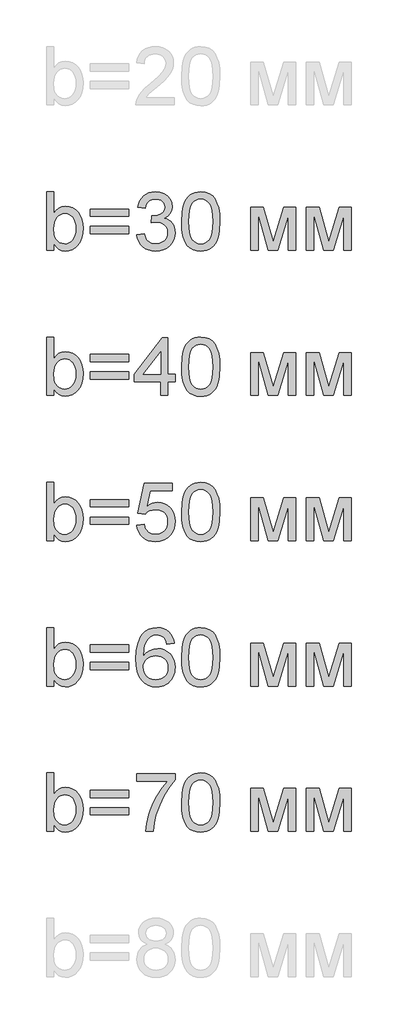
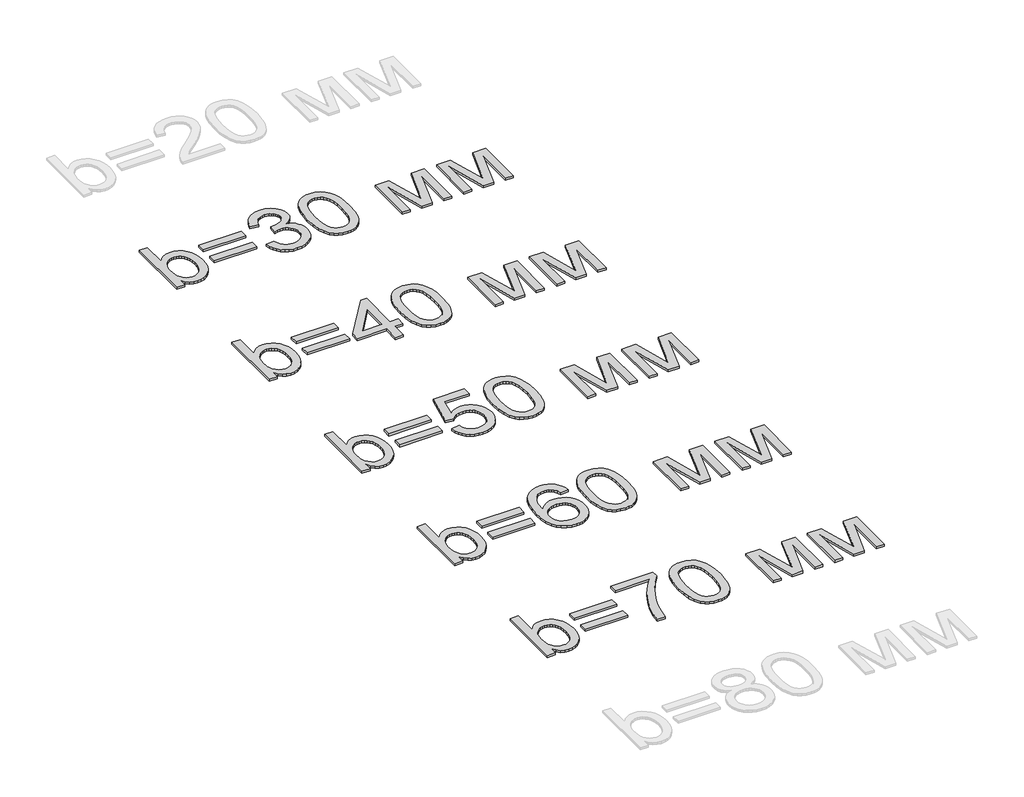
# One storey, part 48 of 86: 5 proxies.
"""IFC4 building model written with IfcOpenShell, lengths in millimetres."""

from ifc_helpers import new_model, si_unit, origin, origin_with_axes, place, context, project, spatial, polyline, outline, extrude, element, save

model = new_model("IFC4")

# Units and contexts
model_context = context("Model", 3, world=origin())
ifc_project = project(units=[si_unit("LENGTHUNIT", "METRE", prefix="MILLI")], contexts=[model_context])

# Site, building, storey
site = spatial("IfcSite", under=ifc_project)
building = spatial("IfcBuilding", under=site)
storey = spatial("IfcBuildingStorey", under=building, Name="Уровень 1", Elevation=0.0)

# Proxies
placement = place(None, origin())
element("IfcBuildingElementProxy", 1, Name="Текст модели 1", ObjectType="Текст модели 1", at=placement, inside=storey, context=model_context, shape_type="SweptSolid", body=[
    extrude(outline(polyline([(-2840.3692012, 86169.2937088), (-2915.7114338, 86169.2937088), (-2915.7114338, 86772.0315697), (-2840.3692012, 86772.0315697), (-2840.3692012, 86548.5064694), (-2815.5923488, 86580.3742473), (-2787.6149231, 86603.1369457), (-2756.436924, 86616.7945648), (-2722.0583516, 86621.3471045), (-2683.2468011, 86617.2452202), (-2646.5689661, 86604.9395675), (-2614.1217742, 86585.2026984), (-2588.0021525, 86558.8071653), (-2567.5295195, 86526.0104854), (-2552.0232934, 86487.0701762), (-2542.2560264, 86443.6049185), (-2539.0002708, 86397.233393), (-2542.3709895, 86343.7249568), (-2552.4831459, 86296.6544555), (-2569.3367398, 86256.0218892), (-2592.9317712, 86221.8272577), (-2621.2540864, 86194.7235517), (-2652.2895312, 86175.3637617), (-2686.0381057, 86163.7478877), (-2722.49981, 86159.8759297), (-2758.0096195, 86164.8699278), (-2789.4911213, 86179.8519221), (-2816.9443152, 86204.8219125), (-2840.3692012, 86239.7798991), (-2840.3692012, 86169.2937088)]), holes=[polyline([(-2840.3692012, 86393.7017259), (-2835.2188533, 86330.8674811), (-2828.7809184, 86307.065516), (-2819.7678095, 86288.3403224), (-2801.5116655, 86265.0993774), (-2780.2940714, 86248.4987024), (-2756.1150273, 86238.5382973), (-2728.9745331, 86235.2181623), (-2706.4417609, 86237.6645776), (-2685.4908812, 86245.0038234), (-2666.1218942, 86257.2358997), (-2648.3347997, 86274.3608066), (-2633.4631701, 86296.3325588), (-2622.8405775, 86323.105171), (-2616.4670219, 86354.6786432), (-2614.3425034, 86391.0529755), (-2616.3796499, 86428.1170865), (-2622.4910896, 86459.9940614), (-2632.6768223, 86486.6839001), (-2646.9368481, 86508.1866028), (-2664.0847476, 86524.7320955), (-2682.9341014, 86536.5503046), (-2703.4849093, 86543.64123), (-2725.7371715, 86546.0048719), (-2748.2699437, 86543.5584566), (-2769.2208233, 86536.2192108), (-2788.5898104, 86523.9871344), (-2806.3769049, 86506.8622276), (-2821.2485345, 86485.1112046), (-2831.8711271, 86459.00078), (-2838.2446827, 86428.5309538), (-2840.3692012, 86393.7017259)])]), origin_with_axes(), (0.0, 0.0, 1.0), 20.0),
    extrude(outline(polyline([(-2068.1113169, 86517.7515346), (-2463.6580381, 86517.7515346), (-2463.6580381, 86593.0937672), (-2068.1113169, 86593.0937672), (-2068.1113169, 86517.7515346)])), origin_with_axes(), (0.0, 0.0, 1.0), 20.0),
    extrude(outline(polyline([(-2068.1113169, 86338.8137322), (-2463.6580381, 86338.8137322), (-2463.6580381, 86414.1559648), (-2068.1113169, 86414.1559648), (-2068.1113169, 86338.8137322)])), origin_with_axes(), (0.0, 0.0, 1.0), 20.0),
    extrude(outline(polyline([(-1983.3513052, 86329.3959531), (-1908.0090726, 86338.8137322), (-1891.1416832, 86291.4673194), (-1879.769531, 86273.5606633), (-1866.4384072, 86259.498374), (-1850.8448091, 86248.8757814), (-1832.6852341, 86241.2882153), (-1811.9596822, 86236.7356756), (-1788.6681534, 86235.2181623), (-1761.3713094, 86237.3058927), (-1737.0175213, 86243.5690836), (-1715.6067892, 86254.0077352), (-1697.139113, 86268.6218475), (-1682.2674833, 86286.3169715), (-1671.6448907, 86305.9986582), (-1665.2713352, 86327.6669077), (-1663.1468166, 86351.32172), (-1665.2529411, 86373.8498937), (-1671.5713143, 86394.3455193), (-1682.1019364, 86412.808597), (-1696.8448074, 86429.2391266), (-1714.834237, 86442.7266002), (-1735.1045349, 86452.36051), (-1757.6557012, 86458.1408558), (-1782.4877359, 86460.0676378), (-1806.289701, 86458.0074986), (-1835.3155904, 86451.8270811), (-1826.9278809, 86527.1693137), (-1814.8613515, 86526.2863969), (-1769.7222306, 86531.6942622), (-1729.3655758, 86547.9178582), (-1712.7557037, 86560.1867228), (-1700.8915093, 86575.3618551), (-1693.7729927, 86593.4432551), (-1691.4001539, 86614.430923), (-1693.1200022, 86631.4684579), (-1698.2795472, 86646.9700854), (-1706.8787888, 86660.9358057), (-1718.9177271, 86673.3656186), (-1733.6697951, 86683.5697454), (-1750.4084259, 86690.8584075), (-1789.8453758, 86696.6893371), (-1810.5019498, 86695.2178091), (-1829.3559021, 86690.8032252), (-1846.4072325, 86683.4455853), (-1861.6559412, 86673.1448894), (-1874.7249491, 86659.9011376), (-1885.2371771, 86643.7143298), (-1893.1926253, 86624.584466), (-1898.5912936, 86602.5115463), (-1973.9335262, 86611.9293254), (-1965.0031907, 86647.8989875), (-1951.7502419, 86679.5828243), (-1934.1746795, 86706.9808359), (-1912.2765038, 86730.0930222), (-1886.7454933, 86748.4411368), (-1858.2714269, 86761.5469328), (-1826.8543045, 86769.4104105), (-1792.4941261, 86772.0315697), (-1745.1293193, 86766.8628277), (-1701.6272733, 86751.3566016), (-1664.9494384, 86726.8924489), (-1638.0572646, 86694.8499271), (-1621.5577571, 86657.9329689), (-1616.0579213, 86618.8455069), (-1621.2818456, 86582.4251894), (-1636.9536186, 86549.3893862), (-1662.852511, 86521.2464136), (-1698.7577938, 86499.5045877), (-1673.6498476, 86491.6503071), (-1651.595322, 86480.4483003), (-1632.5942169, 86465.8985674), (-1616.6465324, 86448.0011083), (-1604.02818, 86427.1973815), (-1595.0150711, 86403.9288453), (-1589.6072058, 86378.1954998), (-1587.804584, 86349.9973448), (-1591.4098276, 86311.7744055), (-1602.2255582, 86276.5680986), (-1620.251776, 86244.378424), (-1645.4884809, 86215.2053818), (-1676.2342186, 86190.9987465), (-1710.787535, 86173.7082927), (-1749.1484301, 86163.3340205), (-1791.3169038, 86159.8759297), (-1829.4294785, 86162.8281827), (-1864.1575388, 86171.6849418), (-1895.5010848, 86186.4462068), (-1923.4601164, 86207.1119779), (-1946.9033966, 86232.4682444), (-1964.6996881, 86261.3009958), (-1976.848991, 86293.610232), (-1983.3513052, 86329.3959531)])), origin_with_axes(), (0.0, 0.0, 1.0), 20.0),
    extrude(outline(polyline([(-1521.8801305, 86465.8065969), (-1516.3435065, 86562.2836501), (-1509.4227264, 86603.1967265), (-1499.7336344, 86639.2261694), (-1487.317617, 86670.6662845), (-1472.2160611, 86697.8113772), (-1454.4289667, 86720.6614476), (-1433.9563336, 86739.2164957), (-1410.7291842, 86753.5730906), (-1384.6785404, 86763.8278012), (-1355.8044023, 86769.9806276), (-1324.1067699, 86772.0315697), (-1277.6800621, 86767.1755274), (-1236.1093966, 86752.6074004), (-1201.3445481, 86728.8974058), (-1175.335291, 86696.6157607), (-1155.6903925, 86656.0383766), (-1140.0186195, 86607.4411651), (-1129.7547118, 86545.7289604), (-1126.3334093, 86465.8065969), (-1131.814851, 86369.8813667), (-1138.6666532, 86329.106246), (-1148.2591762, 86293.1227884), (-1160.5786245, 86261.6688778), (-1175.6112025, 86234.4823983), (-1193.3569103, 86211.56335), (-1213.8157477, 86192.9117329), (-1237.0704884, 86178.458569), (-1263.2039056, 86168.1348805), (-1292.2159994, 86161.9406674), (-1324.1067699, 86159.8759297), (-1365.6038589, 86163.4627792), (-1402.3920585, 86174.2233275), (-1434.4713684, 86192.1575748), (-1461.8417889, 86217.265521), (-1488.1085633, 86262.6529621), (-1506.8705451, 86319.2056218), (-1518.1277341, 86386.9235001), (-1521.8801305, 86465.8065969)]), holes=[polyline([(-1446.5378979, 86465.9537497), (-1444.3306059, 86400.456959), (-1437.70873, 86347.440565), (-1426.6722701, 86306.9045676), (-1411.2212263, 86278.848967), (-1392.532821, 86259.7604899), (-1371.7842765, 86246.1258635), (-1348.9755928, 86237.9450876), (-1324.1067699, 86235.2181623), (-1299.237947, 86237.9542847), (-1276.4292633, 86246.1626517), (-1255.6807188, 86259.8432634), (-1236.9923134, 86278.9961198), (-1221.5412696, 86307.0977057), (-1210.5048098, 86347.624506), (-1203.8829339, 86400.5765206), (-1201.6756419, 86465.9537497), (-1203.8093575, 86529.7168965), (-1210.2105042, 86581.79979), (-1220.879082, 86622.2024301), (-1235.815091, 86650.9248169), (-1254.1907967, 86670.9467945), (-1275.1784645, 86685.248207), (-1298.7780945, 86693.8290546), (-1324.9896867, 86696.6893371), (-1349.7297508, 86694.1693454), (-1372.1521585, 86686.6093704), (-1392.2569095, 86674.0094121), (-1410.044004, 86656.3694704), (-1426.0100825, 86625.0995008), (-1437.4144244, 86582.9402242), (-1444.2570295, 86529.8916405), (-1446.5378979, 86465.9537497)])]), origin_with_axes(), (0.0, 0.0, 1.0), 20.0),
    extrude(outline(polyline([(-806.1289207, 86611.9293254), (-676.4873056, 86611.9293254), (-576.5705557, 86257.5853876), (-468.8547075, 86611.9293254), (-344.6577459, 86611.9293254), (-344.6577459, 86169.2937088), (-419.9999785, 86169.2937088), (-419.9999785, 86525.6977857), (-528.3044379, 86169.2937088), (-627.1911182, 86169.2937088), (-730.7866881, 86542.7675103), (-730.7866881, 86169.2937088), (-806.1289207, 86169.2937088), (-806.1289207, 86611.9293254)])), origin_with_axes(), (0.0, 0.0, 1.0), 20.0),
    extrude(outline(polyline([(-231.644397, 86611.9293254), (-102.0027819, 86611.9293254), (-2.086032, 86257.5853876), (105.6298162, 86611.9293254), (229.8267777, 86611.9293254), (229.8267777, 86169.2937088), (154.4845451, 86169.2937088), (154.4845451, 86525.6977857), (46.1800857, 86169.2937088), (-52.7065946, 86169.2937088), (-156.3021644, 86542.7675103), (-156.3021644, 86169.2937088), (-231.644397, 86169.2937088), (-231.644397, 86611.9293254)])), origin_with_axes(), (0.0, 0.0, 1.0), 20.0),
])
element("IfcBuildingElementProxy", 2, Name="Текст модели 1", ObjectType="Текст модели 1", at=placement, inside=storey, context=model_context, shape_type="SweptSolid", body=[
    extrude(outline(polyline([(-2840.3692012, 84669.2937088), (-2915.7114338, 84669.2937088), (-2915.7114338, 85272.0315697), (-2840.3692012, 85272.0315697), (-2840.3692012, 85048.5064694), (-2815.5923488, 85080.3742473), (-2787.6149231, 85103.1369457), (-2756.436924, 85116.7945648), (-2722.0583516, 85121.3471045), (-2683.2468011, 85117.2452202), (-2646.5689661, 85104.9395675), (-2614.1217742, 85085.2026984), (-2588.0021525, 85058.8071653), (-2567.5295195, 85026.0104854), (-2552.0232934, 84987.0701762), (-2542.2560264, 84943.6049185), (-2539.0002708, 84897.233393), (-2542.3709895, 84843.7249568), (-2552.4831459, 84796.6544555), (-2569.3367398, 84756.0218892), (-2592.9317712, 84721.8272577), (-2621.2540864, 84694.7235517), (-2652.2895312, 84675.3637617), (-2686.0381057, 84663.7478877), (-2722.49981, 84659.8759297), (-2758.0096195, 84664.8699278), (-2789.4911213, 84679.8519221), (-2816.9443152, 84704.8219125), (-2840.3692012, 84739.7798991), (-2840.3692012, 84669.2937088)]), holes=[polyline([(-2840.3692012, 84893.7017259), (-2835.2188533, 84830.8674811), (-2828.7809184, 84807.065516), (-2819.7678095, 84788.3403224), (-2801.5116655, 84765.0993774), (-2780.2940714, 84748.4987024), (-2756.1150273, 84738.5382973), (-2728.9745331, 84735.2181623), (-2706.4417609, 84737.6645776), (-2685.4908812, 84745.0038234), (-2666.1218942, 84757.2358997), (-2648.3347997, 84774.3608066), (-2633.4631701, 84796.3325588), (-2622.8405775, 84823.105171), (-2616.4670219, 84854.6786432), (-2614.3425034, 84891.0529755), (-2616.3796499, 84928.1170865), (-2622.4910896, 84959.9940614), (-2632.6768223, 84986.6839001), (-2646.9368481, 85008.1866028), (-2664.0847476, 85024.7320955), (-2682.9341014, 85036.5503046), (-2703.4849093, 85043.64123), (-2725.7371715, 85046.0048719), (-2748.2699437, 85043.5584566), (-2769.2208233, 85036.2192108), (-2788.5898104, 85023.9871344), (-2806.3769049, 85006.8622276), (-2821.2485345, 84985.1112046), (-2831.8711271, 84959.00078), (-2838.2446827, 84928.5309538), (-2840.3692012, 84893.7017259)])]), origin_with_axes(), (0.0, 0.0, 1.0), 20.0),
    extrude(outline(polyline([(-2068.1113169, 85017.7515346), (-2463.6580381, 85017.7515346), (-2463.6580381, 85093.0937672), (-2068.1113169, 85093.0937672), (-2068.1113169, 85017.7515346)])), origin_with_axes(), (0.0, 0.0, 1.0), 20.0),
    extrude(outline(polyline([(-2068.1113169, 84838.8137322), (-2463.6580381, 84838.8137322), (-2463.6580381, 84914.1559648), (-2068.1113169, 84914.1559648), (-2068.1113169, 84838.8137322)])), origin_with_axes(), (0.0, 0.0, 1.0), 20.0),
    extrude(outline(polyline([(-1738.4890493, 84669.2937088), (-1738.4890493, 84810.5603949), (-2011.6046425, 84810.5603949), (-2011.6046425, 84885.9026276), (-1719.6534911, 85262.6137906), (-1663.1468166, 85262.6137906), (-1663.1468166, 84885.9026276), (-1587.804584, 84885.9026276), (-1587.804584, 84810.5603949), (-1663.1468166, 84810.5603949), (-1663.1468166, 84669.2937088), (-1738.4890493, 84669.2937088)]), holes=[polyline([(-1738.4890493, 84885.9026276), (-1738.4890493, 85118.6983541), (-1918.8983797, 84885.9026276), (-1738.4890493, 84885.9026276)])]), origin_with_axes(), (0.0, 0.0, 1.0), 20.0),
    extrude(outline(polyline([(-1521.8801305, 84965.8065969), (-1516.3435065, 85062.2836501), (-1509.4227264, 85103.1967265), (-1499.7336344, 85139.2261694), (-1487.317617, 85170.6662845), (-1472.2160611, 85197.8113772), (-1454.4289667, 85220.6614476), (-1433.9563336, 85239.2164957), (-1410.7291842, 85253.5730906), (-1384.6785404, 85263.8278012), (-1355.8044023, 85269.9806276), (-1324.1067699, 85272.0315697), (-1277.6800621, 85267.1755274), (-1236.1093966, 85252.6074004), (-1201.3445481, 85228.8974058), (-1175.335291, 85196.6157607), (-1155.6903925, 85156.0383766), (-1140.0186195, 85107.4411651), (-1129.7547118, 85045.7289604), (-1126.3334093, 84965.8065969), (-1131.814851, 84869.8813667), (-1138.6666532, 84829.106246), (-1148.2591762, 84793.1227884), (-1160.5786245, 84761.6688778), (-1175.6112025, 84734.4823983), (-1193.3569103, 84711.56335), (-1213.8157477, 84692.9117329), (-1237.0704884, 84678.458569), (-1263.2039056, 84668.1348805), (-1292.2159994, 84661.9406674), (-1324.1067699, 84659.8759297), (-1365.6038589, 84663.4627792), (-1402.3920585, 84674.2233275), (-1434.4713684, 84692.1575748), (-1461.8417889, 84717.265521), (-1488.1085633, 84762.6529621), (-1506.8705451, 84819.2056218), (-1518.1277341, 84886.9235001), (-1521.8801305, 84965.8065969)]), holes=[polyline([(-1446.5378979, 84965.9537497), (-1444.3306059, 84900.456959), (-1437.70873, 84847.440565), (-1426.6722701, 84806.9045676), (-1411.2212263, 84778.848967), (-1392.532821, 84759.7604899), (-1371.7842765, 84746.1258635), (-1348.9755928, 84737.9450876), (-1324.1067699, 84735.2181623), (-1299.237947, 84737.9542847), (-1276.4292633, 84746.1626517), (-1255.6807188, 84759.8432634), (-1236.9923134, 84778.9961198), (-1221.5412696, 84807.0977057), (-1210.5048098, 84847.624506), (-1203.8829339, 84900.5765206), (-1201.6756419, 84965.9537497), (-1203.8093575, 85029.7168965), (-1210.2105042, 85081.79979), (-1220.879082, 85122.2024301), (-1235.815091, 85150.9248169), (-1254.1907967, 85170.9467945), (-1275.1784645, 85185.248207), (-1298.7780945, 85193.8290546), (-1324.9896867, 85196.6893371), (-1349.7297508, 85194.1693454), (-1372.1521585, 85186.6093704), (-1392.2569095, 85174.0094121), (-1410.044004, 85156.3694704), (-1426.0100825, 85125.0995008), (-1437.4144244, 85082.9402242), (-1444.2570295, 85029.8916405), (-1446.5378979, 84965.9537497)])]), origin_with_axes(), (0.0, 0.0, 1.0), 20.0),
    extrude(outline(polyline([(-806.1289207, 85111.9293254), (-676.4873056, 85111.9293254), (-576.5705557, 84757.5853876), (-468.8547075, 85111.9293254), (-344.6577459, 85111.9293254), (-344.6577459, 84669.2937088), (-419.9999785, 84669.2937088), (-419.9999785, 85025.6977857), (-528.3044379, 84669.2937088), (-627.1911182, 84669.2937088), (-730.7866881, 85042.7675103), (-730.7866881, 84669.2937088), (-806.1289207, 84669.2937088), (-806.1289207, 85111.9293254)])), origin_with_axes(), (0.0, 0.0, 1.0), 20.0),
    extrude(outline(polyline([(-231.644397, 85111.9293254), (-102.0027819, 85111.9293254), (-2.086032, 84757.5853876), (105.6298162, 85111.9293254), (229.8267777, 85111.9293254), (229.8267777, 84669.2937088), (154.4845451, 84669.2937088), (154.4845451, 85025.6977857), (46.1800857, 84669.2937088), (-52.7065946, 84669.2937088), (-156.3021644, 85042.7675103), (-156.3021644, 84669.2937088), (-231.644397, 84669.2937088), (-231.644397, 85111.9293254)])), origin_with_axes(), (0.0, 0.0, 1.0), 20.0),
])
element("IfcBuildingElementProxy", 3, Name="Текст модели 1", ObjectType="Текст модели 1", at=placement, inside=storey, context=model_context, shape_type="SweptSolid", body=[
    extrude(outline(polyline([(-2840.3692012, 83169.2937088), (-2915.7114338, 83169.2937088), (-2915.7114338, 83772.0315697), (-2840.3692012, 83772.0315697), (-2840.3692012, 83548.5064694), (-2815.5923488, 83580.3742473), (-2787.6149231, 83603.1369457), (-2756.436924, 83616.7945648), (-2722.0583516, 83621.3471045), (-2683.2468011, 83617.2452202), (-2646.5689661, 83604.9395675), (-2614.1217742, 83585.2026984), (-2588.0021525, 83558.8071653), (-2567.5295195, 83526.0104854), (-2552.0232934, 83487.0701762), (-2542.2560264, 83443.6049185), (-2539.0002708, 83397.233393), (-2542.3709895, 83343.7249568), (-2552.4831459, 83296.6544555), (-2569.3367398, 83256.0218892), (-2592.9317712, 83221.8272577), (-2621.2540864, 83194.7235517), (-2652.2895312, 83175.3637617), (-2686.0381057, 83163.7478877), (-2722.49981, 83159.8759297), (-2758.0096195, 83164.8699278), (-2789.4911213, 83179.8519221), (-2816.9443152, 83204.8219125), (-2840.3692012, 83239.7798991), (-2840.3692012, 83169.2937088)]), holes=[polyline([(-2840.3692012, 83393.7017259), (-2835.2188533, 83330.8674811), (-2828.7809184, 83307.065516), (-2819.7678095, 83288.3403224), (-2801.5116655, 83265.0993774), (-2780.2940714, 83248.4987024), (-2756.1150273, 83238.5382973), (-2728.9745331, 83235.2181623), (-2706.4417609, 83237.6645776), (-2685.4908812, 83245.0038234), (-2666.1218942, 83257.2358997), (-2648.3347997, 83274.3608066), (-2633.4631701, 83296.3325588), (-2622.8405775, 83323.105171), (-2616.4670219, 83354.6786432), (-2614.3425034, 83391.0529755), (-2616.3796499, 83428.1170865), (-2622.4910896, 83459.9940614), (-2632.6768223, 83486.6839001), (-2646.9368481, 83508.1866028), (-2664.0847476, 83524.7320955), (-2682.9341014, 83536.5503046), (-2703.4849093, 83543.64123), (-2725.7371715, 83546.0048719), (-2748.2699437, 83543.5584566), (-2769.2208233, 83536.2192108), (-2788.5898104, 83523.9871344), (-2806.3769049, 83506.8622276), (-2821.2485345, 83485.1112046), (-2831.8711271, 83459.00078), (-2838.2446827, 83428.5309538), (-2840.3692012, 83393.7017259)])]), origin_with_axes(), (0.0, 0.0, 1.0), 20.0),
    extrude(outline(polyline([(-2068.1113169, 83517.7515346), (-2463.6580381, 83517.7515346), (-2463.6580381, 83593.0937672), (-2068.1113169, 83593.0937672), (-2068.1113169, 83517.7515346)])), origin_with_axes(), (0.0, 0.0, 1.0), 20.0),
    extrude(outline(polyline([(-2068.1113169, 83338.8137322), (-2463.6580381, 83338.8137322), (-2463.6580381, 83414.1559648), (-2068.1113169, 83414.1559648), (-2068.1113169, 83338.8137322)])), origin_with_axes(), (0.0, 0.0, 1.0), 20.0),
    extrude(outline(polyline([(-1983.3513052, 83329.3959531), (-1908.0090726, 83338.8137322), (-1902.3804781, 83314.5933013), (-1894.1767096, 83293.5826409), (-1883.3977672, 83275.7817508), (-1870.0436507, 83261.1906312), (-1854.1419515, 83249.8276761), (-1835.7202606, 83241.7112795), (-1814.778578, 83236.8414416), (-1791.3169038, 83235.2181623), (-1762.6221081, 83237.4760381), (-1737.3118269, 83244.2496653), (-1715.38606, 83255.539044), (-1696.8448074, 83271.3441743), (-1682.1019364, 83290.8833067), (-1671.5713143, 83313.3746922), (-1665.2529411, 83338.8183307), (-1663.1468166, 83367.2142222), (-1665.1195838, 83394.0512138), (-1671.0378854, 83417.9083611), (-1680.9017214, 83438.7856644), (-1694.7110918, 83456.6831234), (-1712.5119819, 83471.0397183), (-1734.3503768, 83481.2944289), (-1760.2262766, 83487.4472553), (-1790.1396814, 83489.4981974), (-1826.6887576, 83486.2240476), (-1856.2848641, 83476.4015984), (-1879.9212823, 83461.3552248), (-1898.5912936, 83442.409302), (-1973.9335262, 83451.8270811), (-1908.0090726, 83762.6137906), (-1616.0579213, 83762.6137906), (-1616.0579213, 83687.271558), (-1847.0878142, 83687.271558), (-1879.314277, 83521.2832018), (-1852.7256058, 83540.3394891), (-1825.4931411, 83553.951123), (-1797.6168829, 83562.1181032), (-1769.0968313, 83564.84043), (-1732.4052008, 83561.4651127), (-1698.7026115, 83551.3391608), (-1667.9890634, 83534.4625743), (-1640.2645565, 83510.8353531), (-1617.3133186, 83481.9014342), (-1600.9195772, 83449.1047543), (-1591.0833323, 83412.4453135), (-1587.804584, 83371.9231117), (-1590.756837, 83332.8908321), (-1599.6135961, 83296.5808791), (-1614.3748611, 83262.993253), (-1635.0406322, 83232.1279536), (-1666.34739, 83200.5176931), (-1702.8780721, 83177.9389357), (-1744.6326786, 83164.3916812), (-1791.6112094, 83159.8759297), (-1830.4917377, 83162.777599), (-1865.6106727, 83171.4826067), (-1896.9680142, 83185.9909529), (-1924.5637624, 83206.3026375), (-1947.5241974, 83231.4059852), (-1964.9755996, 83260.2893203), (-1976.9179689, 83292.952643), (-1983.3513052, 83329.3959531)])), origin_with_axes(), (0.0, 0.0, 1.0), 20.0),
    extrude(outline(polyline([(-1521.8801305, 83465.8065969), (-1516.3435065, 83562.2836501), (-1509.4227264, 83603.1967265), (-1499.7336344, 83639.2261694), (-1487.317617, 83670.6662845), (-1472.2160611, 83697.8113772), (-1454.4289667, 83720.6614476), (-1433.9563336, 83739.2164957), (-1410.7291842, 83753.5730906), (-1384.6785404, 83763.8278012), (-1355.8044023, 83769.9806276), (-1324.1067699, 83772.0315697), (-1277.6800621, 83767.1755274), (-1236.1093966, 83752.6074004), (-1201.3445481, 83728.8974058), (-1175.335291, 83696.6157607), (-1155.6903925, 83656.0383766), (-1140.0186195, 83607.4411651), (-1129.7547118, 83545.7289604), (-1126.3334093, 83465.8065969), (-1131.814851, 83369.8813667), (-1138.6666532, 83329.106246), (-1148.2591762, 83293.1227884), (-1160.5786245, 83261.6688778), (-1175.6112025, 83234.4823983), (-1193.3569103, 83211.56335), (-1213.8157477, 83192.9117329), (-1237.0704884, 83178.458569), (-1263.2039056, 83168.1348805), (-1292.2159994, 83161.9406674), (-1324.1067699, 83159.8759297), (-1365.6038589, 83163.4627792), (-1402.3920585, 83174.2233275), (-1434.4713684, 83192.1575748), (-1461.8417889, 83217.265521), (-1488.1085633, 83262.6529621), (-1506.8705451, 83319.2056218), (-1518.1277341, 83386.9235001), (-1521.8801305, 83465.8065969)]), holes=[polyline([(-1446.5378979, 83465.9537497), (-1444.3306059, 83400.456959), (-1437.70873, 83347.440565), (-1426.6722701, 83306.9045676), (-1411.2212263, 83278.848967), (-1392.532821, 83259.7604899), (-1371.7842765, 83246.1258635), (-1348.9755928, 83237.9450876), (-1324.1067699, 83235.2181623), (-1299.237947, 83237.9542847), (-1276.4292633, 83246.1626517), (-1255.6807188, 83259.8432634), (-1236.9923134, 83278.9961198), (-1221.5412696, 83307.0977057), (-1210.5048098, 83347.624506), (-1203.8829339, 83400.5765206), (-1201.6756419, 83465.9537497), (-1203.8093575, 83529.7168965), (-1210.2105042, 83581.79979), (-1220.879082, 83622.2024301), (-1235.815091, 83650.9248169), (-1254.1907967, 83670.9467945), (-1275.1784645, 83685.248207), (-1298.7780945, 83693.8290546), (-1324.9896867, 83696.6893371), (-1349.7297508, 83694.1693454), (-1372.1521585, 83686.6093704), (-1392.2569095, 83674.0094121), (-1410.044004, 83656.3694704), (-1426.0100825, 83625.0995008), (-1437.4144244, 83582.9402242), (-1444.2570295, 83529.8916405), (-1446.5378979, 83465.9537497)])]), origin_with_axes(), (0.0, 0.0, 1.0), 20.0),
    extrude(outline(polyline([(-806.1289207, 83611.9293254), (-676.4873056, 83611.9293254), (-576.5705557, 83257.5853876), (-468.8547075, 83611.9293254), (-344.6577459, 83611.9293254), (-344.6577459, 83169.2937088), (-419.9999785, 83169.2937088), (-419.9999785, 83525.6977857), (-528.3044379, 83169.2937088), (-627.1911182, 83169.2937088), (-730.7866881, 83542.7675103), (-730.7866881, 83169.2937088), (-806.1289207, 83169.2937088), (-806.1289207, 83611.9293254)])), origin_with_axes(), (0.0, 0.0, 1.0), 20.0),
    extrude(outline(polyline([(-231.644397, 83611.9293254), (-102.0027819, 83611.9293254), (-2.086032, 83257.5853876), (105.6298162, 83611.9293254), (229.8267777, 83611.9293254), (229.8267777, 83169.2937088), (154.4845451, 83169.2937088), (154.4845451, 83525.6977857), (46.1800857, 83169.2937088), (-52.7065946, 83169.2937088), (-156.3021644, 83542.7675103), (-156.3021644, 83169.2937088), (-231.644397, 83169.2937088), (-231.644397, 83611.9293254)])), origin_with_axes(), (0.0, 0.0, 1.0), 20.0),
])
element("IfcBuildingElementProxy", 4, Name="Текст модели 1", ObjectType="Текст модели 1", at=placement, inside=storey, context=model_context, shape_type="SweptSolid", body=[
    extrude(outline(polyline([(-2840.3692012, 81669.2937088), (-2915.7114338, 81669.2937088), (-2915.7114338, 82272.0315697), (-2840.3692012, 82272.0315697), (-2840.3692012, 82048.5064694), (-2815.5923488, 82080.3742473), (-2787.6149231, 82103.1369457), (-2756.436924, 82116.7945648), (-2722.0583516, 82121.3471045), (-2683.2468011, 82117.2452202), (-2646.5689661, 82104.9395675), (-2614.1217742, 82085.2026984), (-2588.0021525, 82058.8071653), (-2567.5295195, 82026.0104854), (-2552.0232934, 81987.0701762), (-2542.2560264, 81943.6049185), (-2539.0002708, 81897.233393), (-2542.3709895, 81843.7249568), (-2552.4831459, 81796.6544555), (-2569.3367398, 81756.0218892), (-2592.9317712, 81721.8272577), (-2621.2540864, 81694.7235517), (-2652.2895312, 81675.3637617), (-2686.0381057, 81663.7478877), (-2722.49981, 81659.8759297), (-2758.0096195, 81664.8699278), (-2789.4911213, 81679.8519221), (-2816.9443152, 81704.8219125), (-2840.3692012, 81739.7798991), (-2840.3692012, 81669.2937088)]), holes=[polyline([(-2840.3692012, 81893.7017259), (-2835.2188533, 81830.8674811), (-2828.7809184, 81807.065516), (-2819.7678095, 81788.3403224), (-2801.5116655, 81765.0993774), (-2780.2940714, 81748.4987024), (-2756.1150273, 81738.5382973), (-2728.9745331, 81735.2181623), (-2706.4417609, 81737.6645776), (-2685.4908812, 81745.0038234), (-2666.1218942, 81757.2358997), (-2648.3347997, 81774.3608066), (-2633.4631701, 81796.3325588), (-2622.8405775, 81823.105171), (-2616.4670219, 81854.6786432), (-2614.3425034, 81891.0529755), (-2616.3796499, 81928.1170865), (-2622.4910896, 81959.9940614), (-2632.6768223, 81986.6839001), (-2646.9368481, 82008.1866028), (-2664.0847476, 82024.7320955), (-2682.9341014, 82036.5503046), (-2703.4849093, 82043.64123), (-2725.7371715, 82046.0048719), (-2748.2699437, 82043.5584566), (-2769.2208233, 82036.2192108), (-2788.5898104, 82023.9871344), (-2806.3769049, 82006.8622276), (-2821.2485345, 81985.1112046), (-2831.8711271, 81959.00078), (-2838.2446827, 81928.5309538), (-2840.3692012, 81893.7017259)])]), origin_with_axes(), (0.0, 0.0, 1.0), 20.0),
    extrude(outline(polyline([(-2068.1113169, 82017.7515346), (-2463.6580381, 82017.7515346), (-2463.6580381, 82093.0937672), (-2068.1113169, 82093.0937672), (-2068.1113169, 82017.7515346)])), origin_with_axes(), (0.0, 0.0, 1.0), 20.0),
    extrude(outline(polyline([(-2068.1113169, 81838.8137322), (-2463.6580381, 81838.8137322), (-2463.6580381, 81914.1559648), (-2068.1113169, 81914.1559648), (-2068.1113169, 81838.8137322)])), origin_with_axes(), (0.0, 0.0, 1.0), 20.0),
    extrude(outline(polyline([(-1597.2223631, 82111.9293254), (-1672.5645957, 82102.5115463), (-1684.7047016, 82139.8515688), (-1701.1122385, 82165.3457911), (-1717.3082434, 82179.0585925), (-1735.2884759, 82188.8534506), (-1755.0529361, 82194.7303655), (-1776.601624, 82196.6893371), (-1811.6239899, 82192.1276003), (-1844.5862167, 82178.4423901), (-1872.8947362, 82149.6188358), (-1896.0161196, 82109.9427626), (-1905.0522211, 82084.6370799), (-1911.6327103, 82053.8223643), (-1917.4268517, 81975.6658344), (-1887.2053458, 82010.9273236), (-1850.9873634, 82035.7777524), (-1810.7962554, 82050.5114263), (-1768.6553729, 82055.4226509), (-1732.4557845, 82052.0657277), (-1699.0520994, 82041.9949581), (-1668.4443174, 82025.2103421), (-1640.6324385, 82001.7118796), (-1617.5202522, 81972.8975224), (-1601.0115477, 81940.1652218), (-1591.1063249, 81903.5149781), (-1587.804584, 81862.9467911), (-1589.3588855, 81835.4798016), (-1594.0217897, 81808.9968965), (-1601.7932969, 81783.4980757), (-1612.6734069, 81758.9833392), (-1626.2758437, 81736.3677936), (-1642.2143311, 81716.5665452), (-1660.4888692, 81699.5795941), (-1681.099458, 81685.4069402), (-1703.6046391, 81674.2371231), (-1727.562954, 81666.2586823), (-1752.9744028, 81661.4716179), (-1779.8389855, 81659.8759297), (-1824.7527786, 81664.1065727), (-1865.3163671, 81676.7985015), (-1901.529751, 81697.9517162), (-1933.3929303, 81727.5662168), (-1959.3699977, 81766.8928021), (-1977.9250458, 81817.1822709), (-1989.0580747, 81878.4346231), (-1992.7690843, 81950.6498587), (-1988.648806, 82031.6114888), (-1976.2879709, 82100.7089245), (-1955.6865792, 82157.9421659), (-1942.2956746, 82182.1097138), (-1926.8446308, 82203.311213), (-1895.5838582, 82233.3763691), (-1859.3382847, 82254.8514805), (-1818.1079101, 82267.7365474), (-1771.8927344, 82272.0315697), (-1737.1922652, 82269.3736223), (-1705.7843399, 82261.39978), (-1677.6689584, 82248.110043), (-1652.8461208, 82229.5044111), (-1631.9872116, 82206.2082837), (-1615.7636157, 82178.8470603), (-1604.1753328, 82147.4207409), (-1597.2223631, 82111.9293254)]), holes=[polyline([(-1917.4268517, 81864.1240134), (-1913.0674501, 81830.7387224), (-1899.9892451, 81798.8617475), (-1879.682159, 81771.4545389), (-1853.6361137, 81751.4785465), (-1822.2005973, 81739.2832584), (-1785.7250974, 81735.2181623), (-1759.5364979, 81737.3242868), (-1736.0058458, 81743.64266), (-1715.1331411, 81754.1732821), (-1696.9183838, 81768.9161531), (-1682.1433232, 81787.2734647), (-1671.5897084, 81808.6474086), (-1665.2575396, 81833.0379849), (-1663.1468166, 81860.4451935), (-1665.2299484, 81886.7809458), (-1671.4793438, 81910.1644451), (-1681.8950028, 81930.5956914), (-1696.4769254, 81948.0746847), (-1714.746865, 81962.0771932), (-1736.226575, 81972.0789849), (-1760.9160554, 81978.08006), (-1788.8153062, 81980.0804183), (-1814.6544178, 81978.08006), (-1838.4609814, 81972.0789849), (-1860.234997, 81962.0771932), (-1879.9764646, 81948.0746847), (-1896.361009, 81930.8256177), (-1908.0642549, 81911.0841501), (-1915.0862025, 81888.850282), (-1917.4268517, 81864.1240134)])]), origin_with_axes(), (0.0, 0.0, 1.0), 20.0),
    extrude(outline(polyline([(-1521.8801305, 81965.8065969), (-1516.3435065, 82062.2836501), (-1509.4227264, 82103.1967265), (-1499.7336344, 82139.2261694), (-1487.317617, 82170.6662845), (-1472.2160611, 82197.8113772), (-1454.4289667, 82220.6614476), (-1433.9563336, 82239.2164957), (-1410.7291842, 82253.5730906), (-1384.6785404, 82263.8278012), (-1355.8044023, 82269.9806276), (-1324.1067699, 82272.0315697), (-1277.6800621, 82267.1755274), (-1236.1093966, 82252.6074004), (-1201.3445481, 82228.8974058), (-1175.335291, 82196.6157607), (-1155.6903925, 82156.0383766), (-1140.0186195, 82107.4411651), (-1129.7547118, 82045.7289604), (-1126.3334093, 81965.8065969), (-1131.814851, 81869.8813667), (-1138.6666532, 81829.106246), (-1148.2591762, 81793.1227884), (-1160.5786245, 81761.6688778), (-1175.6112025, 81734.4823983), (-1193.3569103, 81711.56335), (-1213.8157477, 81692.9117329), (-1237.0704884, 81678.458569), (-1263.2039056, 81668.1348805), (-1292.2159994, 81661.9406674), (-1324.1067699, 81659.8759297), (-1365.6038589, 81663.4627792), (-1402.3920585, 81674.2233275), (-1434.4713684, 81692.1575748), (-1461.8417889, 81717.265521), (-1488.1085633, 81762.6529621), (-1506.8705451, 81819.2056218), (-1518.1277341, 81886.9235001), (-1521.8801305, 81965.8065969)]), holes=[polyline([(-1446.5378979, 81965.9537497), (-1444.3306059, 81900.456959), (-1437.70873, 81847.440565), (-1426.6722701, 81806.9045676), (-1411.2212263, 81778.848967), (-1392.532821, 81759.7604899), (-1371.7842765, 81746.1258635), (-1348.9755928, 81737.9450876), (-1324.1067699, 81735.2181623), (-1299.237947, 81737.9542847), (-1276.4292633, 81746.1626517), (-1255.6807188, 81759.8432634), (-1236.9923134, 81778.9961198), (-1221.5412696, 81807.0977057), (-1210.5048098, 81847.624506), (-1203.8829339, 81900.5765206), (-1201.6756419, 81965.9537497), (-1203.8093575, 82029.7168965), (-1210.2105042, 82081.79979), (-1220.879082, 82122.2024301), (-1235.815091, 82150.9248169), (-1254.1907967, 82170.9467945), (-1275.1784645, 82185.248207), (-1298.7780945, 82193.8290546), (-1324.9896867, 82196.6893371), (-1349.7297508, 82194.1693454), (-1372.1521585, 82186.6093704), (-1392.2569095, 82174.0094121), (-1410.044004, 82156.3694704), (-1426.0100825, 82125.0995008), (-1437.4144244, 82082.9402242), (-1444.2570295, 82029.8916405), (-1446.5378979, 81965.9537497)])]), origin_with_axes(), (0.0, 0.0, 1.0), 20.0),
    extrude(outline(polyline([(-806.1289207, 82111.9293254), (-676.4873056, 82111.9293254), (-576.5705557, 81757.5853876), (-468.8547075, 82111.9293254), (-344.6577459, 82111.9293254), (-344.6577459, 81669.2937088), (-419.9999785, 81669.2937088), (-419.9999785, 82025.6977857), (-528.3044379, 81669.2937088), (-627.1911182, 81669.2937088), (-730.7866881, 82042.7675103), (-730.7866881, 81669.2937088), (-806.1289207, 81669.2937088), (-806.1289207, 82111.9293254)])), origin_with_axes(), (0.0, 0.0, 1.0), 20.0),
    extrude(outline(polyline([(-231.644397, 82111.9293254), (-102.0027819, 82111.9293254), (-2.086032, 81757.5853876), (105.6298162, 82111.9293254), (229.8267777, 82111.9293254), (229.8267777, 81669.2937088), (154.4845451, 81669.2937088), (154.4845451, 82025.6977857), (46.1800857, 81669.2937088), (-52.7065946, 81669.2937088), (-156.3021644, 82042.7675103), (-156.3021644, 81669.2937088), (-231.644397, 81669.2937088), (-231.644397, 82111.9293254)])), origin_with_axes(), (0.0, 0.0, 1.0), 20.0),
])
element("IfcBuildingElementProxy", 5, Name="Текст модели 1", ObjectType="Текст модели 1", at=placement, inside=storey, context=model_context, shape_type="SweptSolid", body=[
    extrude(outline(polyline([(-2840.3692012, 80169.2937088), (-2915.7114338, 80169.2937088), (-2915.7114338, 80772.0315697), (-2840.3692012, 80772.0315697), (-2840.3692012, 80548.5064694), (-2815.5923488, 80580.3742473), (-2787.6149231, 80603.1369457), (-2756.436924, 80616.7945648), (-2722.0583516, 80621.3471045), (-2683.2468011, 80617.2452202), (-2646.5689661, 80604.9395675), (-2614.1217742, 80585.2026984), (-2588.0021525, 80558.8071653), (-2567.5295195, 80526.0104854), (-2552.0232934, 80487.0701762), (-2542.2560264, 80443.6049185), (-2539.0002708, 80397.233393), (-2542.3709895, 80343.7249568), (-2552.4831459, 80296.6544555), (-2569.3367398, 80256.0218892), (-2592.9317712, 80221.8272577), (-2621.2540864, 80194.7235517), (-2652.2895312, 80175.3637617), (-2686.0381057, 80163.7478877), (-2722.49981, 80159.8759297), (-2758.0096195, 80164.8699278), (-2789.4911213, 80179.8519221), (-2816.9443152, 80204.8219125), (-2840.3692012, 80239.7798991), (-2840.3692012, 80169.2937088)]), holes=[polyline([(-2840.3692012, 80393.7017259), (-2835.2188533, 80330.8674811), (-2828.7809184, 80307.065516), (-2819.7678095, 80288.3403224), (-2801.5116655, 80265.0993774), (-2780.2940714, 80248.4987024), (-2756.1150273, 80238.5382973), (-2728.9745331, 80235.2181623), (-2706.4417609, 80237.6645776), (-2685.4908812, 80245.0038234), (-2666.1218942, 80257.2358997), (-2648.3347997, 80274.3608066), (-2633.4631701, 80296.3325588), (-2622.8405775, 80323.105171), (-2616.4670219, 80354.6786432), (-2614.3425034, 80391.0529755), (-2616.3796499, 80428.1170865), (-2622.4910896, 80459.9940614), (-2632.6768223, 80486.6839001), (-2646.9368481, 80508.1866028), (-2664.0847476, 80524.7320955), (-2682.9341014, 80536.5503046), (-2703.4849093, 80543.64123), (-2725.7371715, 80546.0048719), (-2748.2699437, 80543.5584566), (-2769.2208233, 80536.2192108), (-2788.5898104, 80523.9871344), (-2806.3769049, 80506.8622276), (-2821.2485345, 80485.1112046), (-2831.8711271, 80459.00078), (-2838.2446827, 80428.5309538), (-2840.3692012, 80393.7017259)])]), origin_with_axes(), (0.0, 0.0, 1.0), 20.0),
    extrude(outline(polyline([(-2068.1113169, 80517.7515346), (-2463.6580381, 80517.7515346), (-2463.6580381, 80593.0937672), (-2068.1113169, 80593.0937672), (-2068.1113169, 80517.7515346)])), origin_with_axes(), (0.0, 0.0, 1.0), 20.0),
    extrude(outline(polyline([(-2068.1113169, 80338.8137322), (-2463.6580381, 80338.8137322), (-2463.6580381, 80414.1559648), (-2068.1113169, 80414.1559648), (-2068.1113169, 80338.8137322)])), origin_with_axes(), (0.0, 0.0, 1.0), 20.0),
    extrude(outline(polyline([(-1983.3513052, 80687.271558), (-1983.3513052, 80762.6137906), (-1587.804584, 80762.6137906), (-1587.804584, 80701.6925322), (-1644.1824998, 80630.3418193), (-1700.0085926, 80539.6037251), (-1749.2495976, 80437.7555948), (-1769.138218, 80385.7692703), (-1785.8722502, 80333.0747731), (-1803.8248916, 80254.7526963), (-1813.8312819, 80169.2937088), (-1889.1735145, 80169.2937088), (-1881.0249283, 80246.953598), (-1859.2279201, 80339.2551906), (-1843.3584105, 80388.6203558), (-1824.371101, 80437.0934072), (-1802.2659916, 80484.6743447), (-1777.0430823, 80531.3631685), (-1721.7872067, 80616.5830326), (-1663.1468166, 80687.271558), (-1983.3513052, 80687.271558)])), origin_with_axes(), (0.0, 0.0, 1.0), 20.0),
    extrude(outline(polyline([(-1521.8801305, 80465.8065969), (-1516.3435065, 80562.2836501), (-1509.4227264, 80603.1967265), (-1499.7336344, 80639.2261694), (-1487.317617, 80670.6662845), (-1472.2160611, 80697.8113772), (-1454.4289667, 80720.6614476), (-1433.9563336, 80739.2164957), (-1410.7291842, 80753.5730906), (-1384.6785404, 80763.8278012), (-1355.8044023, 80769.9806276), (-1324.1067699, 80772.0315697), (-1277.6800621, 80767.1755274), (-1236.1093966, 80752.6074004), (-1201.3445481, 80728.8974058), (-1175.335291, 80696.6157607), (-1155.6903925, 80656.0383766), (-1140.0186195, 80607.4411651), (-1129.7547118, 80545.7289604), (-1126.3334093, 80465.8065969), (-1131.814851, 80369.8813667), (-1138.6666532, 80329.106246), (-1148.2591762, 80293.1227884), (-1160.5786245, 80261.6688778), (-1175.6112025, 80234.4823983), (-1193.3569103, 80211.56335), (-1213.8157477, 80192.9117329), (-1237.0704884, 80178.458569), (-1263.2039056, 80168.1348805), (-1292.2159994, 80161.9406674), (-1324.1067699, 80159.8759297), (-1365.6038589, 80163.4627792), (-1402.3920585, 80174.2233275), (-1434.4713684, 80192.1575748), (-1461.8417889, 80217.265521), (-1488.1085633, 80262.6529621), (-1506.8705451, 80319.2056218), (-1518.1277341, 80386.9235001), (-1521.8801305, 80465.8065969)]), holes=[polyline([(-1446.5378979, 80465.9537497), (-1444.3306059, 80400.456959), (-1437.70873, 80347.440565), (-1426.6722701, 80306.9045676), (-1411.2212263, 80278.848967), (-1392.532821, 80259.7604899), (-1371.7842765, 80246.1258635), (-1348.9755928, 80237.9450876), (-1324.1067699, 80235.2181623), (-1299.237947, 80237.9542847), (-1276.4292633, 80246.1626517), (-1255.6807188, 80259.8432634), (-1236.9923134, 80278.9961198), (-1221.5412696, 80307.0977057), (-1210.5048098, 80347.624506), (-1203.8829339, 80400.5765206), (-1201.6756419, 80465.9537497), (-1203.8093575, 80529.7168965), (-1210.2105042, 80581.79979), (-1220.879082, 80622.2024301), (-1235.815091, 80650.9248169), (-1254.1907967, 80670.9467945), (-1275.1784645, 80685.248207), (-1298.7780945, 80693.8290546), (-1324.9896867, 80696.6893371), (-1349.7297508, 80694.1693454), (-1372.1521585, 80686.6093704), (-1392.2569095, 80674.0094121), (-1410.044004, 80656.3694704), (-1426.0100825, 80625.0995008), (-1437.4144244, 80582.9402242), (-1444.2570295, 80529.8916405), (-1446.5378979, 80465.9537497)])]), origin_with_axes(), (0.0, 0.0, 1.0), 20.0),
    extrude(outline(polyline([(-806.1289207, 80611.9293254), (-676.4873056, 80611.9293254), (-576.5705557, 80257.5853876), (-468.8547075, 80611.9293254), (-344.6577459, 80611.9293254), (-344.6577459, 80169.2937088), (-419.9999785, 80169.2937088), (-419.9999785, 80525.6977857), (-528.3044379, 80169.2937088), (-627.1911182, 80169.2937088), (-730.7866881, 80542.7675103), (-730.7866881, 80169.2937088), (-806.1289207, 80169.2937088), (-806.1289207, 80611.9293254)])), origin_with_axes(), (0.0, 0.0, 1.0), 20.0),
    extrude(outline(polyline([(-231.644397, 80611.9293254), (-102.0027819, 80611.9293254), (-2.086032, 80257.5853876), (105.6298162, 80611.9293254), (229.8267777, 80611.9293254), (229.8267777, 80169.2937088), (154.4845451, 80169.2937088), (154.4845451, 80525.6977857), (46.1800857, 80169.2937088), (-52.7065946, 80169.2937088), (-156.3021644, 80542.7675103), (-156.3021644, 80169.2937088), (-231.644397, 80169.2937088), (-231.644397, 80611.9293254)])), origin_with_axes(), (0.0, 0.0, 1.0), 20.0),
])

save(model, "model.ifc")
